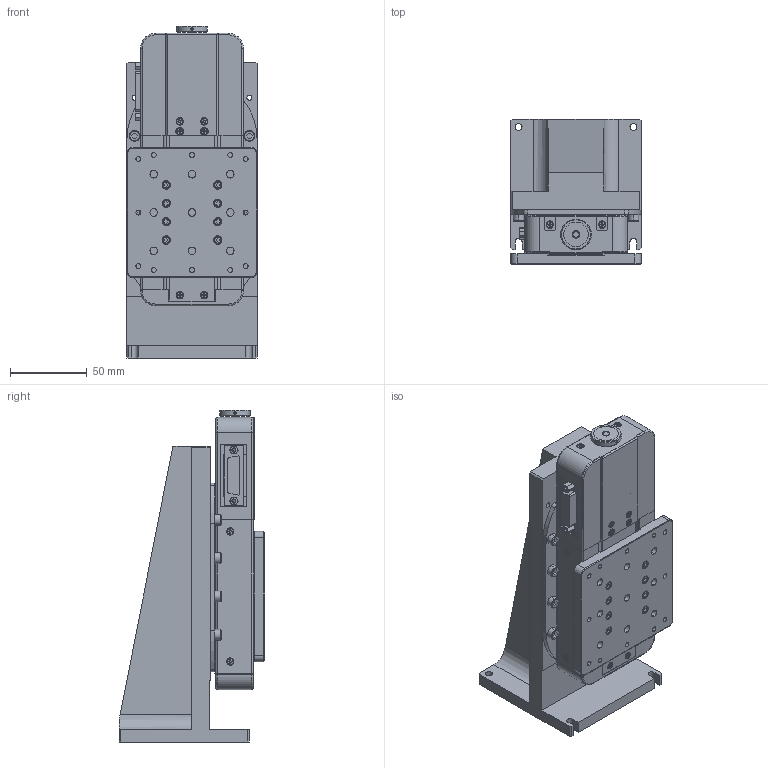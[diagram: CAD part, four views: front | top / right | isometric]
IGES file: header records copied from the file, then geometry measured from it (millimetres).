
Global section: file name: No Iges File Name specified; native system: AutoDesk Inventor R12.0; preprocessor: AutoDesk Inventor Iges Exporter R12.0; date: 20140324.164130; units: millimetre
Bounding box: 85 x 95 x 216.8 mm (x, y, z)
Volume: 658274.3 mm3; surface area: 208649.3 mm2
Topology: 3 solids, 60 shells, 2671 faces, 6742 edges, 4237 vertices
Faces by surface type: plane 1356, bspline 533, cylinder 380, cone 228, revolution 153, torus 20, sphere 1
Full cylindrical faces by diameter (mm): 12 x1
